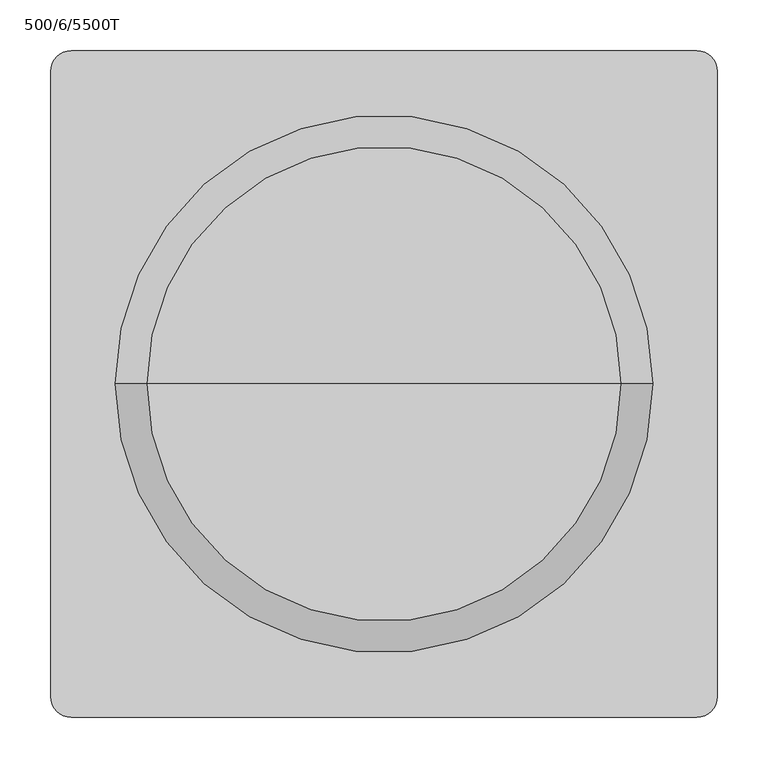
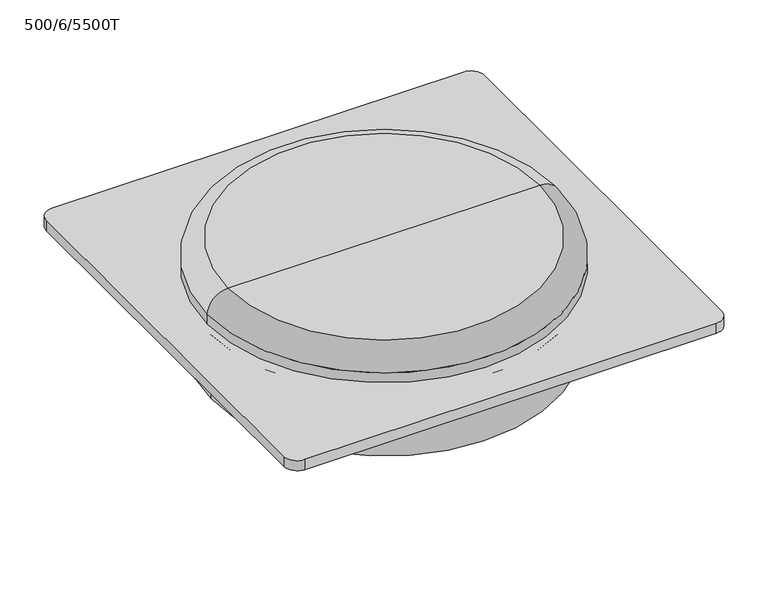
"""IFC4 building model written with IfcOpenShell, lengths in millimetres: unitary equipment geometry, VE-Wentylator-ParaForma-Harmann-WAF-Wywiewny : 500/6/5500T."""

from ifc_helpers import new_model, si_unit, point, frame, frame_2d, origin, origin_with_axes, origin_2d, place, context, project, spatial, polyline, circle_curve, ellipse_curve, trimmed, segment, composite_curve, outline, extrude, source, transform, mapped, element, save
from ifc_brep_helpers import plane_surface, cylinder_surface, revolved_surface, advanced_brep


def unitary_equipment_500_6_5500t_493c1791(model_context):
    return source(origin(), model_context, "Body", "SolidModel", [
        advanced_brep(
        [(264.0, 0.0, 16.0), (-264.0, 0.0, 16.0), (0.0, 0.0, 16.0), (264.0, 0.0, 31.3333333), (-264.0, 0.0, 31.3333333), (233.3333333, 0.0, 62.0), (-233.3333333, 0.0, 62.0), (0.0, 0.0, 62.0)],
        [
            (0, 1, circle_curve(frame((0.0, 0.0, 16.0), z_axis=(0.0, 0.0, -1.0), x_axis=(-1.0000000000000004, 0.0, 0.0)), 264.0)),
            (1, 2),
            (2, 0),
            (1, 0, circle_curve(frame((0.0, 0.0, 16.0), z_axis=(0.0, 0.0, -1.0), x_axis=(-1.0000000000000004, 0.0, 0.0)), 264.0)),
            (3, 4, circle_curve(frame((0.0, 0.0, 31.3333333), z_axis=(0.0, 0.0, -1.0), x_axis=(-1.0000000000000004, 0.0, 0.0)), 264.0)),
            (4, 1),
            (0, 3),
            (4, 3, circle_curve(frame((0.0, 0.0, 31.3333333), z_axis=(0.0, 0.0, -1.0), x_axis=(-1.0000000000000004, 0.0, 0.0)), 264.0)),
            (5, 6, circle_curve(frame((0.0, 0.0, 62.0), z_axis=(0.0, 0.0, -1.0), x_axis=(-1.0000000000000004, 0.0, 0.0)), 233.3333333)),
            (6, 4, circle_curve(frame((-233.3333333, 0.0, 31.3333333), z_axis=(0.0, -1.0000000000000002, 0.0), x_axis=(0.0, 0.0, -1.0000000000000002)), 30.6666667)),
            (3, 5, circle_curve(frame((233.3333333, 0.0, 31.3333333), z_axis=(0.0, -1.0000000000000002, 0.0), x_axis=(0.0, 0.0, -1.0000000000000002)), 30.6666667)),
            (6, 5, circle_curve(frame((0.0, 0.0, 62.0), z_axis=(0.0, 0.0, -1.0), x_axis=(-1.0000000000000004, 0.0, 0.0)), 233.3333333)),
            (7, 6),
            (5, 7),
        ],
        [
            plane_surface(frame((0.0, 0.0, 16.0), z_axis=(0.0, 0.0, -1.0), x_axis=(-1.0, 0.0, 0.0))),
            cylinder_surface(frame((0.0, 0.0, 62.0), z_axis=(0.0, 0.0, 1.0000000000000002), x_axis=(-1.0000000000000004, 0.0, 0.0)), 264.0),
            revolved_surface(trimmed(ellipse_curve(frame((-233.3333333, 0.0, 31.3333333), z_axis=(0.0, 1.0000000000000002, 0.0), x_axis=(0.0, 0.0, -1.0000000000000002)), 30.6666667, 30.6666667), [point((-264.0, 0.0, 31.3333333))], [point((-233.3333333, 0.0, 62.0))], True, "CARTESIAN"), (0.0, 0.0, 62.0), (0.0, 0.0, 1.0000000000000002)),
            plane_surface(frame((0.0, 0.0, 62.0), z_axis=(0.0, 0.0, 1.0), x_axis=(-1.0, 0.0, 0.0))),
        ],
        [
            (0, [[1, 2, 3]]),
            (0, [[4, -3, -2]]),
            (1, [[5, 6, -1, 7]]),
            (1, [[8, -7, -4, -6]]),
            (2, [[9, 10, -5, 11]]),
            (2, [[12, -11, -8, -10]]),
            (3, [[13, -9, 14]]),
            (3, [[-14, -12, -13]]),
        ],
    ),
        extrude(outline(composite_curve([segment(trimmed(circle_curve(origin_2d(), 79.2), [point((79.2, 0.0))], [point((-79.2, 0.0))], False, "CARTESIAN"), True, "CONTINUOUS"), segment(trimmed(circle_curve(origin_2d(), 79.2), [point((-79.2, 0.0))], [point((79.2, 0.0))], False, "CARTESIAN"), True, "CONTINUOUS")], self_intersect=False)), frame((0.0, 0.0, -128.0), z_axis=(0.0, 0.0, 1.0), x_axis=(1.0, 0.0, 0.0)), (0.0, 0.0, 1.0), 24.0),
        advanced_brep(
        [(0.0, 0.0, 0.0), (-264.0, 0.0, 0.0), (264.0, 0.0, 0.0), (258.5, 0.0, -104.0), (-258.5, 0.0, -104.0), (0.0, 0.0, -104.0), (258.5, 0.0, -5.5), (-258.5, 0.0, -5.5)],
        [
            (0, 1),
            (1, 2, circle_curve(frame((0.0, 0.0, 0.0), z_axis=(0.0, 0.0, 1.0), x_axis=(-1.0000000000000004, 0.0, 0.0)), 264.0)),
            (2, 0),
            (2, 1, circle_curve(frame((0.0, 0.0, 0.0), z_axis=(0.0, 0.0, 1.0), x_axis=(-1.0000000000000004, 0.0, 0.0)), 264.0)),
            (3, 4, circle_curve(frame((0.0, 0.0, -104.0), z_axis=(0.0, 0.0, -1.0), x_axis=(-1.0000000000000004, 0.0, 0.0)), 258.5)),
            (4, 5),
            (5, 3),
            (4, 3, circle_curve(frame((0.0, 0.0, -104.0), z_axis=(0.0, 0.0, -1.0), x_axis=(-1.0000000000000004, 0.0, 0.0)), 258.5)),
            (6, 7, circle_curve(frame((0.0, 0.0, -5.5), z_axis=(0.0, 0.0, -1.0), x_axis=(-1.0000000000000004, 0.0, 0.0)), 258.5)),
            (7, 4),
            (3, 6),
            (7, 6, circle_curve(frame((0.0, 0.0, -5.5), z_axis=(0.0, 0.0, -1.0), x_axis=(-1.0000000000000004, 0.0, 0.0)), 258.5)),
            (1, 7, circle_curve(frame((-264.0, 0.0, -5.5), z_axis=(0.0, 1.0000000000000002, 0.0), x_axis=(0.0, 0.0, -1.0000000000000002)), 5.5)),
            (6, 2, circle_curve(frame((264.0, 0.0, -5.5), z_axis=(0.0, 1.0000000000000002, 0.0), x_axis=(0.0, 0.0, -1.0000000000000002)), 5.5)),
        ],
        [
            plane_surface(frame((0.0, 0.0, 0.0), z_axis=(0.0, 0.0, 1.0), x_axis=(-1.0, 0.0, 0.0))),
            plane_surface(frame((0.0, 0.0, -104.0), z_axis=(0.0, 0.0, -1.0), x_axis=(-1.0, 0.0, 0.0))),
            cylinder_surface(frame((0.0, 0.0, 0.0), z_axis=(0.0, 0.0, 1.0000000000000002), x_axis=(-1.0000000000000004, 0.0, 0.0)), 258.5),
            revolved_surface(trimmed(ellipse_curve(frame((-264.0, 0.0, -5.5), z_axis=(0.0, -1.0000000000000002, 0.0), x_axis=(0.0, 0.0, -1.0000000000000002)), 5.5, 5.5), [point((-258.5, 0.0, -5.5))], [point((-264.0, 0.0, 0.0))], True, "CARTESIAN"), (0.0, 0.0, 0.0), (0.0, 0.0, 1.0000000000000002)),
        ],
        [
            (0, [[1, 2, 3]]),
            (0, [[-3, 4, -1]]),
            (1, [[5, 6, 7]]),
            (1, [[8, -7, -6]]),
            (2, [[9, 10, -5, 11]]),
            (2, [[12, -11, -8, -10]]),
            (3, [[-2, 13, -9, 14]]),
            (3, [[-4, -14, -12, -13]]),
        ],
    ),
        extrude(outline(composite_curve([segment(polyline([(307.5, -327.5), (-307.5, -327.5)]), True, "CONTINUOUS"), segment(trimmed(circle_curve(frame_2d((-307.5, -307.5)), 20.0), [point((-307.5, -327.5))], [point((-327.5, -307.5))], False, "CARTESIAN"), True, "CONTINUOUS"), segment(polyline([(-327.5, -307.5), (-327.5, 307.5)]), True, "CONTINUOUS"), segment(trimmed(circle_curve(frame_2d((-307.5, 307.5)), 20.0), [point((-327.5, 307.5))], [point((-307.5, 327.5))], False, "CARTESIAN"), True, "CONTINUOUS"), segment(polyline([(-307.5, 327.5), (307.5, 327.5)]), True, "CONTINUOUS"), segment(trimmed(circle_curve(frame_2d((307.5, 307.5)), 20.0), [point((307.5, 327.5))], [point((327.5, 307.5))], False, "CARTESIAN"), True, "CONTINUOUS"), segment(polyline([(327.5, 307.5), (327.5, -307.5)]), True, "CONTINUOUS"), segment(trimmed(circle_curve(frame_2d((307.5, -307.5)), 20.0), [point((327.5, -307.5))], [point((307.5, -327.5))], False, "CARTESIAN"), True, "CONTINUOUS")], self_intersect=False)), origin_with_axes(), (0.0, 0.0, 1.0), 16.0),
    ])


if __name__ == "__main__":
    model = new_model("IFC4")
    model_context = context("Model", 3, world=origin())
    ifc_project = project(units=[si_unit("LENGTHUNIT", "METRE", prefix="MILLI")], contexts=[model_context])
    site = spatial("IfcSite", under=ifc_project)
    building = spatial("IfcBuilding", under=site)
    placement = place(None, origin())
    unitary_equipment_500_6_5500t_shape = unitary_equipment_500_6_5500t_493c1791(model_context)
    element("IfcUnitaryEquipment", 1, ObjectType="VE-Wentylator-ParaForma-Harmann-WAF-Wywiewny : 500/6/5500T", at=placement, inside=building, context=model_context, shape_type="MappedRepresentation", body=[
        mapped(unitary_equipment_500_6_5500t_shape, transform((0.0, 0.0, 0.0), x_axis=(1.0, 0.0, 0.0), y_axis=(0.0, 1.0, 0.0), z_axis=(0.0, 0.0, 1.0))),
    ])
    save(model, "model.ifc")
